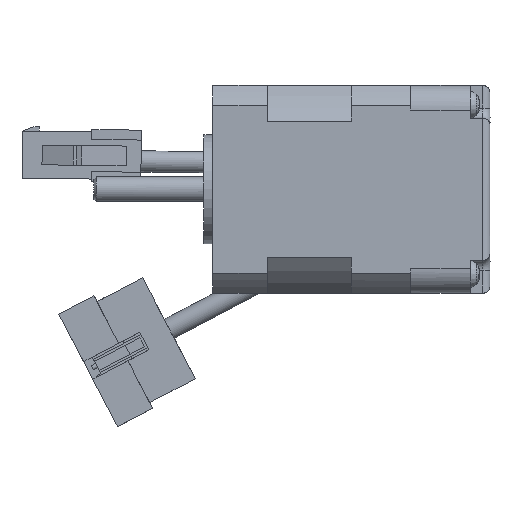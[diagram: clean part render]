
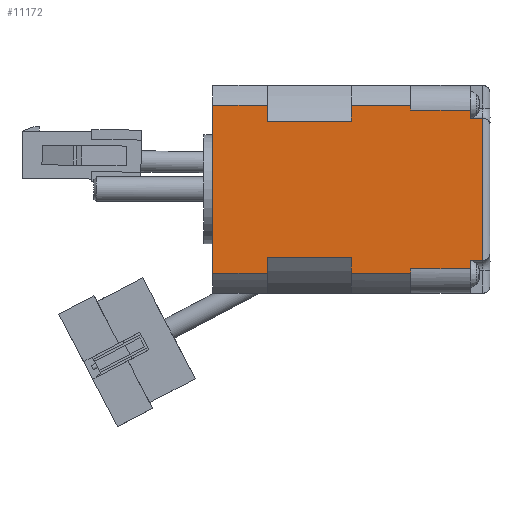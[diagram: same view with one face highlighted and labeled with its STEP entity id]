
A CAD part, front view. The second image highlights one B-rep face of the part: STEP entity #11172.
In plain terms, the highlighted planar face has unit normal (0, -1, 0).
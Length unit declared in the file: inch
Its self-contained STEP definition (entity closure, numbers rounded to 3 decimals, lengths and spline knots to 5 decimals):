
#971=FACE_OUTER_BOUND('',#1743,.T.);
#1743=EDGE_LOOP('',(#9454,#9455,#9456,#9457,#9458,#9459,#9460,#9461,#9462,
#9463,#9464,#9465,#9466,#9467,#9468,#9469,#9470,#9471,#9472,#9473));
#1934=LINE('',#15877,#2933);
#1935=LINE('',#15885,#2934);
#1975=LINE('',#16171,#2974);
#1980=LINE('',#16190,#2979);
#1984=LINE('',#16206,#2983);
#1989=LINE('',#16229,#2988);
#1994=LINE('',#16239,#2993);
#1996=LINE('',#16245,#2995);
#1999=LINE('',#16254,#2998);
#2000=LINE('',#16256,#2999);
#2014=LINE('',#16291,#3013);
#2016=LINE('',#16298,#3015);
#2019=LINE('',#16302,#3018);
#2178=LINE('',#16865,#3177);
#2182=LINE('',#16875,#3181);
#2206=LINE('',#17100,#3205);
#2681=LINE('',#18877,#3680);
#2683=LINE('',#18880,#3682);
#2708=LINE('',#18967,#3707);
#2709=LINE('',#18969,#3708);
#2933=VECTOR('',#12532,0.03821);
#2934=VECTOR('',#12541,0.03821);
#2974=VECTOR('',#12825,0.47244);
#2979=VECTOR('',#12846,0.47244);
#2983=VECTOR('',#12866,0.43307);
#2988=VECTOR('',#12887,0.43307);
#2993=VECTOR('',#12898,1.33626);
#2995=VECTOR('',#12906,0.12615);
#2998=VECTOR('',#12915,0.12615);
#2999=VECTOR('',#12918,0.66929);
#3013=VECTOR('',#12954,0.66929);
#3015=VECTOR('',#12962,0.12615);
#3018=VECTOR('',#12967,0.12615);
#3177=VECTOR('',#13474,0.06299);
#3181=VECTOR('',#13484,0.09843);
#3205=VECTOR('',#13624,0.06299);
#3680=VECTOR('',#15053,0.09843);
#3682=VECTOR('',#15057,1.13386);
#3707=VECTOR('',#15142,0.47244);
#3708=VECTOR('',#15145,0.47244);
#4442=VERTEX_POINT('',#15873);
#4444=VERTEX_POINT('',#15876);
#4446=VERTEX_POINT('',#15881);
#4447=VERTEX_POINT('',#15883);
#4559=VERTEX_POINT('',#16167);
#4564=VERTEX_POINT('',#16187);
#4568=VERTEX_POINT('',#16203);
#4569=VERTEX_POINT('',#16205);
#4578=VERTEX_POINT('',#16227);
#4579=VERTEX_POINT('',#16228);
#4582=VERTEX_POINT('',#16244);
#4584=VERTEX_POINT('',#16250);
#4594=VERTEX_POINT('',#16289);
#4595=VERTEX_POINT('',#16290);
#4728=VERTEX_POINT('',#16862);
#4729=VERTEX_POINT('',#16864);
#4732=VERTEX_POINT('',#16874);
#4776=VERTEX_POINT('',#17097);
#4777=VERTEX_POINT('',#17099);
#5238=VERTEX_POINT('',#18785);
#5490=EDGE_CURVE('',#4444,#4442,#1934,.T.);
#5494=EDGE_CURVE('',#4446,#4447,#1935,.T.);
#5620=EDGE_CURVE('',#4559,#4444,#1975,.T.);
#5630=EDGE_CURVE('',#4564,#4447,#1980,.T.);
#5636=EDGE_CURVE('',#4569,#4568,#1984,.T.);
#5646=EDGE_CURVE('',#4578,#4579,#1989,.T.);
#5653=EDGE_CURVE('',#4569,#4578,#1994,.T.);
#5655=EDGE_CURVE('',#4582,#4564,#1996,.T.);
#5660=EDGE_CURVE('',#4584,#4579,#1999,.T.);
#5661=EDGE_CURVE('',#4584,#4582,#2000,.T.);
#5679=EDGE_CURVE('',#4594,#4595,#2014,.T.);
#5683=EDGE_CURVE('',#4559,#4594,#2016,.T.);
#5686=EDGE_CURVE('',#4568,#4595,#2019,.T.);
#5920=EDGE_CURVE('',#4729,#4728,#2178,.T.);
#5925=EDGE_CURVE('',#4732,#4729,#2182,.T.);
#5992=EDGE_CURVE('',#4777,#4776,#2206,.T.);
#6689=EDGE_CURVE('',#4776,#5238,#2681,.T.);
#6691=EDGE_CURVE('',#5238,#4732,#2683,.T.);
#6731=EDGE_CURVE('',#4728,#4446,#2708,.T.);
#6732=EDGE_CURVE('',#4777,#4442,#2709,.T.);
#9454=ORIENTED_EDGE('',*,*,#6732,.F.);
#9455=ORIENTED_EDGE('',*,*,#5992,.T.);
#9456=ORIENTED_EDGE('',*,*,#6689,.T.);
#9457=ORIENTED_EDGE('',*,*,#6691,.T.);
#9458=ORIENTED_EDGE('',*,*,#5925,.T.);
#9459=ORIENTED_EDGE('',*,*,#5920,.T.);
#9460=ORIENTED_EDGE('',*,*,#6731,.T.);
#9461=ORIENTED_EDGE('',*,*,#5494,.T.);
#9462=ORIENTED_EDGE('',*,*,#5630,.F.);
#9463=ORIENTED_EDGE('',*,*,#5655,.F.);
#9464=ORIENTED_EDGE('',*,*,#5661,.F.);
#9465=ORIENTED_EDGE('',*,*,#5660,.T.);
#9466=ORIENTED_EDGE('',*,*,#5646,.F.);
#9467=ORIENTED_EDGE('',*,*,#5653,.F.);
#9468=ORIENTED_EDGE('',*,*,#5636,.T.);
#9469=ORIENTED_EDGE('',*,*,#5686,.T.);
#9470=ORIENTED_EDGE('',*,*,#5679,.F.);
#9471=ORIENTED_EDGE('',*,*,#5683,.F.);
#9472=ORIENTED_EDGE('',*,*,#5620,.T.);
#9473=ORIENTED_EDGE('',*,*,#5490,.T.);
#10569=PLANE('',#12249);
#11172=ADVANCED_FACE('',(#971),#10569,.T.);
#12249=AXIS2_PLACEMENT_3D('',#18968,#15143,#15144);
#12532=DIRECTION('',(0.,0.,1.));
#12541=DIRECTION('',(0.,0.,1.));
#12825=DIRECTION('',(1.,0.,0.));
#12846=DIRECTION('',(1.,0.,0.));
#12866=DIRECTION('',(1.,0.,0.));
#12887=DIRECTION('',(1.,0.,0.));
#12898=DIRECTION('',(0.,0.,1.));
#12906=DIRECTION('',(0.,0.,1.));
#12915=DIRECTION('',(0.,0.,1.));
#12918=DIRECTION('',(1.,0.,0.));
#12954=DIRECTION('',(-1.,0.,0.));
#12962=DIRECTION('',(0.,0.,1.));
#12967=DIRECTION('',(0.,0.,1.));
#13474=DIRECTION('',(0.,0.,1.));
#13484=DIRECTION('',(-1.,0.,0.));
#13624=DIRECTION('',(0.,0.,1.));
#15053=DIRECTION('',(1.,0.,0.));
#15057=DIRECTION('',(0.,0.,1.));
#15142=DIRECTION('',(-1.,0.,0.));
#15143=DIRECTION('center_axis',(0.,-1.,0.));
#15144=DIRECTION('ref_axis',(0.,0.,-1.));
#15145=DIRECTION('',(-1.,0.,0.));
#15873=CARTESIAN_POINT('',(1.78526,1.02042,0.19685));
#15876=CARTESIAN_POINT('',(1.78526,1.02042,0.15864));
#15877=CARTESIAN_POINT('',(1.78526,1.02042,0.15864));
#15881=CARTESIAN_POINT('',(1.78526,1.02042,1.45669));
#15883=CARTESIAN_POINT('',(1.78526,1.02042,1.4949));
#15885=CARTESIAN_POINT('',(1.78526,1.02042,0.15864));
#16167=CARTESIAN_POINT('',(1.31282,1.02042,0.15864));
#16171=CARTESIAN_POINT('',(0.21046,1.02042,0.15864));
#16187=CARTESIAN_POINT('',(1.31282,1.02042,1.4949));
#16190=CARTESIAN_POINT('',(0.21046,1.02042,1.4949));
#16203=CARTESIAN_POINT('',(0.64353,1.02042,0.15864));
#16205=CARTESIAN_POINT('',(0.21046,1.02042,0.15864));
#16206=CARTESIAN_POINT('',(0.21046,1.02042,0.15864));
#16227=CARTESIAN_POINT('',(0.21046,1.02042,1.4949));
#16228=CARTESIAN_POINT('',(0.64353,1.02042,1.4949));
#16229=CARTESIAN_POINT('',(0.21046,1.02042,1.4949));
#16239=CARTESIAN_POINT('',(0.21046,1.02042,0.15864));
#16244=CARTESIAN_POINT('',(1.31282,1.02042,1.36875));
#16245=CARTESIAN_POINT('',(1.31282,1.02042,0.15864));
#16250=CARTESIAN_POINT('',(0.64353,1.02042,1.36875));
#16254=CARTESIAN_POINT('',(0.64353,1.02042,0.15864));
#16256=CARTESIAN_POINT('',(1.31282,1.02042,1.36875));
#16289=CARTESIAN_POINT('',(1.31282,1.02042,0.28479));
#16290=CARTESIAN_POINT('',(0.64353,1.02042,0.28479));
#16291=CARTESIAN_POINT('',(1.31282,1.02042,0.28479));
#16298=CARTESIAN_POINT('',(1.31282,1.02042,0.15864));
#16302=CARTESIAN_POINT('',(0.64353,1.02042,0.15864));
#16862=CARTESIAN_POINT('',(2.2577,1.02042,1.45669));
#16864=CARTESIAN_POINT('',(2.2577,1.02042,1.3937));
#16865=CARTESIAN_POINT('',(2.2577,1.02042,1.45669));
#16874=CARTESIAN_POINT('',(2.35613,1.02042,1.3937));
#16875=CARTESIAN_POINT('',(1.78526,1.02042,1.3937));
#17097=CARTESIAN_POINT('',(2.2577,1.02042,0.25984));
#17099=CARTESIAN_POINT('',(2.2577,1.02042,0.19685));
#17100=CARTESIAN_POINT('',(2.2577,1.02042,-1.39657));
#18785=CARTESIAN_POINT('',(2.35613,1.02042,0.25984));
#18877=CARTESIAN_POINT('',(1.78526,1.02042,0.25984));
#18880=CARTESIAN_POINT('',(2.35613,1.02042,-1.39657));
#18967=CARTESIAN_POINT('',(1.78526,1.02042,1.45669));
#18968=CARTESIAN_POINT('Origin',(1.78526,1.02042,-1.39657));
#18969=CARTESIAN_POINT('',(1.78526,1.02042,0.19685));
